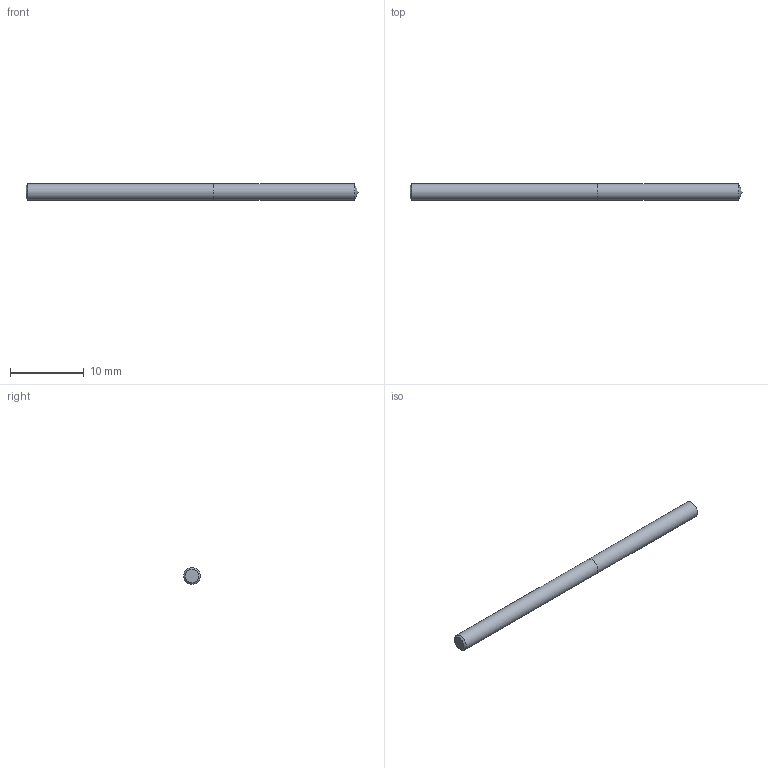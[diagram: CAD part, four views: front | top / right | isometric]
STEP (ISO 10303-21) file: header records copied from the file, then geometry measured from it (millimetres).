
FILE_DESCRIPTION (( 'STEP AP214' ), '1' );
FILE_NAME ('03-2385.STEP', '2022-06-03T07:03:33', ( 'USER' ), ( '' ), 'SwSTEP 2.0', 'SolidWorks 2018', '' );
FILE_SCHEMA (( 'AUTOMOTIVE_DESIGN' ));
Length unit declared in the file: inch
Products named in the file (1): 03-2385
Bounding box: 44.92 x 2.26 x 2.26 mm (x, y, z)
Volume: 178.9 mm3; surface area: 331.1 mm2
Topology: 2 solids, 2 shells, 7 faces, 11 edges, 7 vertices
Faces by surface type: plane 3, cylinder 2, cone 2
Full cylindrical faces by diameter (mm): 2.261 x2
Entity records: 214 total; most frequent: DIRECTION 26, CARTESIAN_POINT 18, AXIS2_PLACEMENT_3D 13, ORIENTED_EDGE 10, EDGE_LOOP 10, FACE_OUTER_BOUND 9, UNCERTAINTY_MEASURE_WITH_UNIT 7, DIMENSIONAL_EXPONENTS 7
